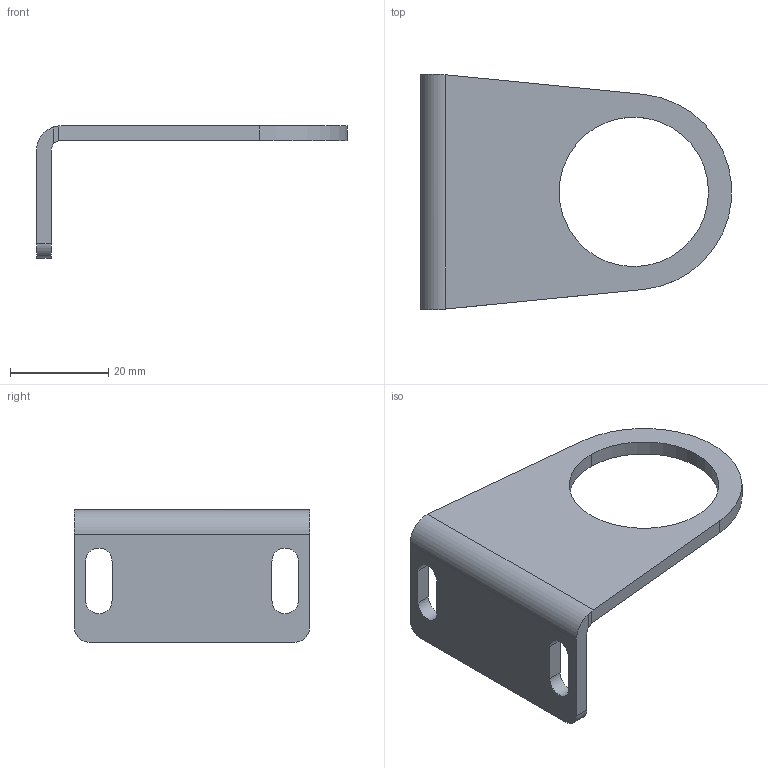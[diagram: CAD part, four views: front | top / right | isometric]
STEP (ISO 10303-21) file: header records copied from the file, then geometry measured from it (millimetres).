
FILE_DESCRIPTION((''),'2;1');
FILE_NAME('1821331013','2016-02-02T',('PUG1HC'),(''),'PRO/ENGINEER BY PARAMETRIC TECHNOLOGY CORPORATION, 2012421','PRO/ENGINEER BY PARAMETRIC TECHNOLOGY CORPORATION, 2012421','');
FILE_SCHEMA(('CONFIG_CONTROL_DESIGN','SHAPE_APPEARANCE_LAYERS_GROUPS'));
Length unit declared in the file: millimetre
Products named in the file (1): 1821331013
Bounding box: 63.42 x 48 x 27 mm (x, y, z)
Volume: 8326.5 mm3; surface area: 6758.2 mm2
Topology: 1 solids, 1 shells, 26 faces, 72 edges, 48 vertices
Faces by surface type: plane 13, cylinder 13
Entity records: 919 total; most frequent: CARTESIAN_POINT 180, ORIENTED_EDGE 144, DIRECTION 138, EDGE_CURVE 72, AXIS2_PLACEMENT_3D 48, VERTEX_POINT 48, VECTOR 42, LINE 42
